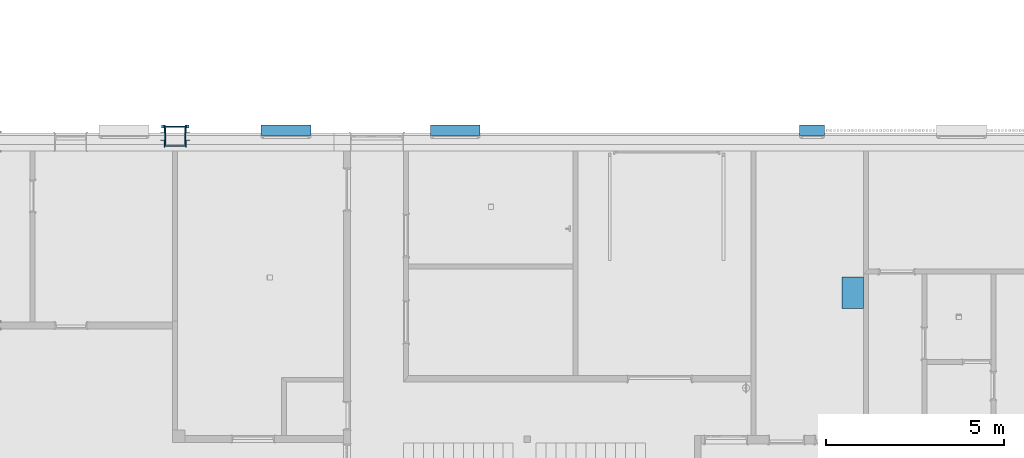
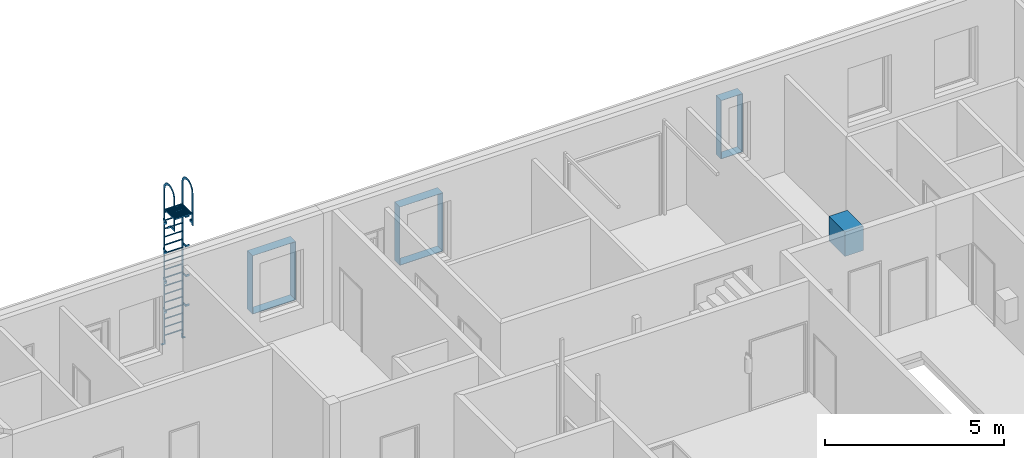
# One storey, part 31 of 112: 5 discrete accessories.
"""IFC2X3 building model written with IfcOpenShell, lengths in millimetres."""

from ifc_helpers import new_model, entity, si_unit, converted_unit, derived_unit, money_unit, direction, frame, origin_with_axes, place, context, subcontext, project, spatial, polyline, outline, extrude, open_shell, faceted_brep, surface_model, source, transform, mapped, material, type_object, element, save


model = new_model("IFC2X3")

# Units and contexts
model_context = context("Model", 3, precision=0.01, world=origin_with_axes(), true_north=direction((0.0, 1.0)))
body_context = subcontext(model_context, "Body", "Model", "MODEL_VIEW")
ifc_project = project(units=[si_unit("LENGTHUNIT", "METRE", prefix="MILLI"), si_unit("AREAUNIT", "SQUARE_METRE"), si_unit("VOLUMEUNIT", "CUBIC_METRE"), converted_unit("PLANEANGLEUNIT", "DEGREE", entity("IfcPlaneAngleMeasure", 0.0174532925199), si_unit("PLANEANGLEUNIT", "RADIAN"), dimensions=[0, 0, 0, 0, 0, 0, 0]), si_unit("SOLIDANGLEUNIT", "STERADIAN"), money_unit("EUR"), converted_unit("TIMEUNIT", "Year", entity("IfcTimeMeasure", 31556926.0), si_unit("TIMEUNIT", "SECOND"), dimensions=[0, 0, 1, 0, 0, 0, 0]), si_unit("MASSUNIT", "GRAM", prefix="KILO"), si_unit("THERMODYNAMICTEMPERATUREUNIT", "DEGREE_CELSIUS"), si_unit("LUMINOUSINTENSITYUNIT", "LUMEN"), si_unit("ENERGYUNIT", "JOULE", prefix="MEGA"), derived_unit("THERMALCONDUCTANCEUNIT", [(si_unit("POWERUNIT", "WATT"), 1), (si_unit("LENGTHUNIT", "METRE"), -1), (si_unit("THERMODYNAMICTEMPERATUREUNIT", "KELVIN"), -1)]), derived_unit("SPECIFICHEATCAPACITYUNIT", [(si_unit("ENERGYUNIT", "JOULE"), 1), (si_unit("MASSUNIT", "GRAM", prefix="KILO"), -1), (si_unit("THERMODYNAMICTEMPERATUREUNIT", "KELVIN"), -1)]), derived_unit("MASSDENSITYUNIT", [(si_unit("MASSUNIT", "GRAM", prefix="KILO"), 1), (si_unit("VOLUMEUNIT", "CUBIC_METRE"), -1)])], contexts=[model_context])

# Site, building, storey
site_placement = place(None, origin_with_axes())
site = spatial("IfcSite", under=ifc_project, at=site_placement, Name="Politse- ja Piirivalveameti ning Päästeameti ühishoone", CompositionType="ELEMENT")
building_placement = place(site_placement, origin_with_axes())
building = spatial("IfcBuilding", under=site, at=building_placement, Name="Politse- ja Piirivalveameti ning Päästeameti ühishoone", CompositionType="ELEMENT")
storey_placement = place(building_placement, origin_with_axes())
storey = spatial("IfcBuildingStorey", under=building, at=storey_placement, Name="Esimene korrus", CompositionType="ELEMENT", Elevation=0.0)

# Discrete accessories
ifc_material_1 = material(Name="Aluminium")
discrete_accessory_type_1 = type_object("IfcDiscreteAccessoryType", Name="Aluminium 840")
discrete_accessory_1_placement = place(storey_placement, frame((30724.7100495, 16570.8319279, 0.0), z_axis=(0.0, 0.0, 1.0), x_axis=(1.0, 0.0, 0.0)))
element("IfcDiscreteAccessory", 1, at=discrete_accessory_1_placement, inside=storey, type_object=discrete_accessory_type_1, material=ifc_material_1, Name="KOMP (Kõrgsurve surukompressor)", context=body_context, shape_type="SweptSolid", body=[
    extrude(outline(polyline([(0.0, 0.0), (600.0, 0.0), (600.0, 890.0), (0.0, 890.0), (0.0, 0.0)])), origin_with_axes(), (0.0, 0.0, 1.0), 840.0),
])
ifc_material_2 = material(Name="SV-01_Krohv - Kips")
discrete_accessory_type_2 = type_object("IfcDiscreteAccessoryType", Name="Architrave 01 23")
shared_shape_1 = source(origin_with_axes(), body_context, "Body", "Brep", [
    faceted_brep([(350.0, 0.0, -10.0), (350.0, -300.182356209, -10.0), (-350.0, -300.182356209, -10.0), (-350.0, 0.0, -10.0), (340.0, 0.0, 0.0), (340.0, -300.182356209, 0.0), (-340.0, -300.182356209, 0.0), (-340.0, 0.0, 0.0)], [[[0, 1, 2, 3]], [[4, 5, 1, 0]], [[1, 5, 6, 2]], [[3, 2, 6, 7]], [[0, 3, 7, 4]], [[7, 6, 5, 4]]]),
    faceted_brep([(-350.0, 0.0, -10.0), (-350.0, -300.182356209, -10.0), (-350.0, -300.182356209, 1990.0), (-350.0, 0.0, 1990.0), (-340.0, 0.0, 0.0), (-340.0, -300.182356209, 0.0), (-340.0, -300.182356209, 1980.0), (-340.0, 0.0, 1980.0)], [[[0, 1, 2, 3]], [[4, 5, 1, 0]], [[1, 5, 6, 2]], [[3, 2, 6, 7]], [[0, 3, 7, 4]], [[7, 6, 5, 4]]]),
    faceted_brep([(-350.0, 0.0, 1990.0), (-350.0, -300.182356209, 1990.0), (350.0, -300.182356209, 1990.0), (350.0, 0.0, 1990.0), (-340.0, 0.0, 1980.0), (-340.0, -300.182356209, 1980.0), (340.0, -300.182356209, 1980.0), (340.0, 0.0, 1980.0)], [[[0, 1, 2, 3]], [[4, 5, 1, 0]], [[1, 5, 6, 2]], [[3, 2, 6, 7]], [[0, 3, 7, 4]], [[7, 6, 5, 4]]]),
    faceted_brep([(350.0, 0.0, 1990.0), (350.0, -300.182356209, 1990.0), (350.0, -300.182356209, -10.0), (350.0, 0.0, -10.0), (340.0, 0.0, 1980.0), (340.0, -300.182356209, 1980.0), (340.0, -300.182356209, 0.0), (340.0, 0.0, 0.0)], [[[0, 1, 2, 3]], [[4, 5, 1, 0]], [[1, 5, 6, 2]], [[3, 2, 6, 7]], [[0, 3, 7, 4]], [[7, 6, 5, 4]]]),
])
discrete_accessory_2_placement = place(storey_placement, frame((29884.1843169, 21429.9520832, 810.0), z_axis=(0.0, 0.0, 1.0), x_axis=(-1.0, 0.0, 0.0)))
element("IfcDiscreteAccessory", 2, at=discrete_accessory_2_placement, inside=storey, type_object=discrete_accessory_type_2, material=ifc_material_2, Name="AKNARAAM 01", context=body_context, shape_type="MappedRepresentation", body=[
    mapped(shared_shape_1, transform((0.0, 0.0, 0.0))),
])
shared_shape_2 = source(origin_with_axes(), body_context, "Body", "Brep", [
    faceted_brep([(700.0, 0.0, -10.0), (700.0, -300.182356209, -10.0), (-700.0, -300.182356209, -10.0), (-700.0, 0.0, -10.0), (690.0, 0.0, 0.0), (690.0, -300.182356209, 0.0), (-690.0, -300.182356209, 0.0), (-690.0, 0.0, 0.0)], [[[0, 1, 2, 3]], [[4, 5, 1, 0]], [[1, 5, 6, 2]], [[3, 2, 6, 7]], [[0, 3, 7, 4]], [[7, 6, 5, 4]]]),
    faceted_brep([(-700.0, 0.0, -10.0), (-700.0, -300.182356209, -10.0), (-700.0, -300.182356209, 1990.0), (-700.0, 0.0, 1990.0), (-690.0, 0.0, 0.0), (-690.0, -300.182356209, 0.0), (-690.0, -300.182356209, 1980.0), (-690.0, 0.0, 1980.0)], [[[0, 1, 2, 3]], [[4, 5, 1, 0]], [[1, 5, 6, 2]], [[3, 2, 6, 7]], [[0, 3, 7, 4]], [[7, 6, 5, 4]]]),
    faceted_brep([(-700.0, 0.0, 1990.0), (-700.0, -300.182356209, 1990.0), (700.0, -300.182356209, 1990.0), (700.0, 0.0, 1990.0), (-690.0, 0.0, 1980.0), (-690.0, -300.182356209, 1980.0), (690.0, -300.182356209, 1980.0), (690.0, 0.0, 1980.0)], [[[0, 1, 2, 3]], [[4, 5, 1, 0]], [[1, 5, 6, 2]], [[3, 2, 6, 7]], [[0, 3, 7, 4]], [[7, 6, 5, 4]]]),
    faceted_brep([(700.0, 0.0, 1990.0), (700.0, -300.182356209, 1990.0), (700.0, -300.182356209, -10.0), (700.0, 0.0, -10.0), (690.0, 0.0, 1980.0), (690.0, -300.182356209, 1980.0), (690.0, -300.182356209, 0.0), (690.0, 0.0, 0.0)], [[[0, 1, 2, 3]], [[4, 5, 1, 0]], [[1, 5, 6, 2]], [[3, 2, 6, 7]], [[0, 3, 7, 4]], [[7, 6, 5, 4]]]),
])
for number, where, z_axis, x_axis, name in (
    (3, (19849.8836066, 21429.9520832, 810.0), (0.0, 0.0, 1.0), (-1.0, 0.0, 0.0), "AKNARAAM 01"),
    (4, (15090.1666751, 21429.9520832, 810.0), (0.0, 0.0, 1.0), (-1.0, 0.0, 0.0), "AKNARAAM 01"),
):
    element("IfcDiscreteAccessory", number, at=place(storey_placement, frame(where, z_axis=z_axis, x_axis=x_axis)), inside=storey, type_object=discrete_accessory_type_2, material=ifc_material_2, Name=name, context=body_context, shape_type="MappedRepresentation", body=[
        mapped(shared_shape_2, transform((0.0, 0.0, 0.0))),
    ])
discrete_accessory_type_3 = type_object("IfcDiscreteAccessoryType", Name="Vertical Ladder 23")
shared_shape_3 = source(origin_with_axes(), body_context, "Body", "SurfaceModel", [
    faceted_brep([(-287.3, -180.0, 4556.9044187), (287.3, -180.0, 4556.9044187), (287.3, -180.0, 4606.9044187), (-287.3, -180.0, 4606.9044187), (-287.3, 380.0, 4556.9044187), (287.3, 380.0, 4556.9044187), (-261.9, -154.6, 4556.9044187), (261.9, -154.6, 4556.9044187), (261.9, 354.6, 4556.9044187), (-261.9, 354.6, 4556.9044187), (287.3, 380.0, 4606.9044187), (-287.3, 380.0, 4606.9044187), (-261.9, -154.6, 4606.9044187), (-261.9, 354.6, 4606.9044187), (261.9, 354.6, 4606.9044187), (261.9, -154.6, 4606.9044187)], [[[0, 1, 2, 3]], [[0, 4, 5, 1], [6, 7, 8, 9]], [[1, 5, 10, 2]], [[3, 2, 10, 11], [12, 13, 14, 15]], [[4, 0, 3, 11]], [[5, 4, 11, 10]], [[7, 6, 12, 15]], [[8, 7, 15, 14]], [[9, 8, 14, 13]], [[6, 9, 13, 12]]]),
    surface_model("IfcShellBasedSurfaceModel", [(-261.9, -130.0, 4606.9044187), (-261.9, -130.0, 4556.9044187), (261.9, -130.0, 4556.9044187), (261.9, -130.0, 4606.9044187)], [open_shell([[[0, 1, 2, 3]]])]),
    surface_model("IfcShellBasedSurfaceModel", [(-261.9, -80.0, 4606.9044187), (-261.9, -80.0, 4556.9044187), (261.9, -80.0, 4556.9044187), (261.9, -80.0, 4606.9044187)], [open_shell([[[0, 1, 2, 3]]])]),
    surface_model("IfcShellBasedSurfaceModel", [(-261.9, -30.0, 4606.9044187), (-261.9, -30.0, 4556.9044187), (261.9, -30.0, 4556.9044187), (261.9, -30.0, 4606.9044187)], [open_shell([[[0, 1, 2, 3]]])]),
    surface_model("IfcShellBasedSurfaceModel", [(-261.9, 20.0, 4606.9044187), (-261.9, 20.0, 4556.9044187), (261.9, 20.0, 4556.9044187), (261.9, 20.0, 4606.9044187)], [open_shell([[[0, 1, 2, 3]]])]),
    surface_model("IfcShellBasedSurfaceModel", [(-261.9, 70.0, 4606.9044187), (-261.9, 70.0, 4556.9044187), (261.9, 70.0, 4556.9044187), (261.9, 70.0, 4606.9044187)], [open_shell([[[0, 1, 2, 3]]])]),
    surface_model("IfcShellBasedSurfaceModel", [(-261.9, 120.0, 4606.9044187), (-261.9, 120.0, 4556.9044187), (261.9, 120.0, 4556.9044187), (261.9, 120.0, 4606.9044187)], [open_shell([[[0, 1, 2, 3]]])]),
    surface_model("IfcShellBasedSurfaceModel", [(-261.9, 170.0, 4606.9044187), (-261.9, 170.0, 4556.9044187), (261.9, 170.0, 4556.9044187), (261.9, 170.0, 4606.9044187)], [open_shell([[[0, 1, 2, 3]]])]),
    surface_model("IfcShellBasedSurfaceModel", [(-261.9, 220.0, 4606.9044187), (-261.9, 220.0, 4556.9044187), (261.9, 220.0, 4556.9044187), (261.9, 220.0, 4606.9044187)], [open_shell([[[0, 1, 2, 3]]])]),
    surface_model("IfcShellBasedSurfaceModel", [(-261.9, 270.0, 4606.9044187), (-261.9, 270.0, 4556.9044187), (261.9, 270.0, 4556.9044187), (261.9, 270.0, 4606.9044187)], [open_shell([[[0, 1, 2, 3]]])]),
    surface_model("IfcShellBasedSurfaceModel", [(-261.9, 320.0, 4606.9044187), (-261.9, 320.0, 4556.9044187), (261.9, 320.0, 4556.9044187), (261.9, 320.0, 4606.9044187)], [open_shell([[[0, 1, 2, 3]]])]),
    surface_model("IfcShellBasedSurfaceModel", [(262.7, -154.6, 4606.9044187), (262.7, -154.6, 4556.9044187), (262.7, 354.6, 4556.9044187), (262.7, 354.6, 4606.9044187)], [open_shell([[[0, 1, 2, 3]]])]),
    surface_model("IfcShellBasedSurfaceModel", [(212.7, -154.6, 4606.9044187), (212.7, -154.6, 4556.9044187), (212.7, 354.6, 4556.9044187), (212.7, 354.6, 4606.9044187)], [open_shell([[[0, 1, 2, 3]]])]),
    surface_model("IfcShellBasedSurfaceModel", [(162.7, -154.6, 4606.9044187), (162.7, -154.6, 4556.9044187), (162.7, 354.6, 4556.9044187), (162.7, 354.6, 4606.9044187)], [open_shell([[[0, 1, 2, 3]]])]),
    surface_model("IfcShellBasedSurfaceModel", [(112.7, -154.6, 4606.9044187), (112.7, -154.6, 4556.9044187), (112.7, 354.6, 4556.9044187), (112.7, 354.6, 4606.9044187)], [open_shell([[[0, 1, 2, 3]]])]),
    surface_model("IfcShellBasedSurfaceModel", [(62.7, -154.6, 4606.9044187), (62.7, -154.6, 4556.9044187), (62.7, 354.6, 4556.9044187), (62.7, 354.6, 4606.9044187)], [open_shell([[[0, 1, 2, 3]]])]),
    surface_model("IfcShellBasedSurfaceModel", [(12.7, -154.6, 4606.9044187), (12.7, -154.6, 4556.9044187), (12.7, 354.6, 4556.9044187), (12.7, 354.6, 4606.9044187)], [open_shell([[[0, 1, 2, 3]]])]),
    surface_model("IfcShellBasedSurfaceModel", [(-37.3, -154.6, 4606.9044187), (-37.3, -154.6, 4556.9044187), (-37.3, 354.6, 4556.9044187), (-37.3, 354.6, 4606.9044187)], [open_shell([[[0, 1, 2, 3]]])]),
    surface_model("IfcShellBasedSurfaceModel", [(-87.3, -154.6, 4606.9044187), (-87.3, -154.6, 4556.9044187), (-87.3, 354.6, 4556.9044187), (-87.3, 354.6, 4606.9044187)], [open_shell([[[0, 1, 2, 3]]])]),
    surface_model("IfcShellBasedSurfaceModel", [(-137.3, -154.6, 4606.9044187), (-137.3, -154.6, 4556.9044187), (-137.3, 354.6, 4556.9044187), (-137.3, 354.6, 4606.9044187)], [open_shell([[[0, 1, 2, 3]]])]),
    surface_model("IfcShellBasedSurfaceModel", [(-187.3, -154.6, 4606.9044187), (-187.3, -154.6, 4556.9044187), (-187.3, 354.6, 4556.9044187), (-187.3, 354.6, 4606.9044187)], [open_shell([[[0, 1, 2, 3]]])]),
    surface_model("IfcShellBasedSurfaceModel", [(-237.3, -154.6, 4606.9044187), (-237.3, -154.6, 4556.9044187), (-237.3, 354.6, 4556.9044187), (-237.3, 354.6, 4606.9044187)], [open_shell([[[0, 1, 2, 3]]])]),
    faceted_brep([(-388.9, -141.9, 12.7), (-388.9, -141.9, 0.0), (-388.9, -218.1, 0.0), (-388.9, -218.1, 12.7), (-287.3, -141.9, 12.7), (-287.3, -141.9, 152.4), (-274.6, -141.9, 152.4), (-274.6, -141.9, 0.0), (-274.6, -218.1, 0.0), (-274.6, -218.1, 152.4), (-287.3, -218.1, 152.4), (-287.3, -218.1, 12.7)], [[[0, 1, 2, 3]], [[0, 4, 5, 6, 7, 1]], [[1, 7, 8, 2]], [[3, 2, 8, 9, 10, 11]], [[4, 0, 3, 11]], [[5, 4, 11, 10]], [[6, 5, 10, 9]], [[7, 6, 9, 8]]]),
    faceted_brep([(388.9, -141.9, 12.7), (388.9, -218.1, 12.7), (388.9, -218.1, 0.0), (388.9, -141.9, 0.0), (287.3, -141.9, 12.7), (287.3, -218.1, 12.7), (287.3, -218.1, 152.4), (274.6, -218.1, 152.4), (274.6, -218.1, 0.0), (274.6, -141.9, 0.0), (274.6, -141.9, 152.4), (287.3, -141.9, 152.4)], [[[0, 1, 2, 3]], [[4, 5, 1, 0]], [[1, 5, 6, 7, 8, 2]], [[3, 2, 8, 9]], [[0, 3, 9, 10, 11, 4]], [[11, 6, 5, 4]], [[10, 7, 6, 11]], [[9, 8, 7, 10]]]),
    faceted_brep([(-312.7, 212.7, 4205.3044187), (-312.7, 212.7, 4281.5044187), (-312.7, 418.1, 4281.5044187), (-312.7, 418.1, 4205.3044187), (-414.3, 212.7, 4205.3044187), (-414.3, 212.7, 4281.5044187), (-414.3, 200.0, 4281.5044187), (-300.0, 200.0, 4281.5044187), (-300.0, 418.1, 4281.5044187), (-300.0, 418.1, 4205.3044187), (-300.0, 200.0, 4205.3044187), (-414.3, 200.0, 4205.3044187)], [[[0, 1, 2, 3]], [[4, 5, 1, 0]], [[1, 5, 6, 7, 8, 2]], [[3, 2, 8, 9]], [[0, 3, 9, 10, 11, 4]], [[11, 6, 5, 4]], [[10, 7, 6, 11]], [[9, 8, 7, 10]]]),
    faceted_brep([(312.7, 212.7, 4205.3044187), (312.7, 418.1, 4205.3044187), (312.7, 418.1, 4281.5044187), (312.7, 212.7, 4281.5044187), (414.3, 212.7, 4205.3044187), (414.3, 200.0, 4205.3044187), (300.0, 200.0, 4205.3044187), (300.0, 418.1, 4205.3044187), (300.0, 418.1, 4281.5044187), (300.0, 200.0, 4281.5044187), (414.3, 200.0, 4281.5044187), (414.3, 212.7, 4281.5044187)], [[[0, 1, 2, 3]], [[0, 4, 5, 6, 7, 1]], [[1, 7, 8, 2]], [[3, 2, 8, 9, 10, 11]], [[4, 0, 3, 11]], [[5, 4, 11, 10]], [[6, 5, 10, 9]], [[7, 6, 9, 8]]]),
    faceted_brep([(-312.7, 212.7, 4205.3044187), (-312.7, 212.7, 4281.5044187), (-312.7, 418.1, 4281.5044187), (-312.7, 418.1, 4205.3044187), (-414.3, 212.7, 4205.3044187), (-414.3, 212.7, 4281.5044187), (-414.3, 200.0, 4281.5044187), (-300.0, 200.0, 4281.5044187), (-300.0, 418.1, 4281.5044187), (-300.0, 418.1, 4205.3044187), (-300.0, 200.0, 4205.3044187), (-414.3, 200.0, 4205.3044187)], [[[0, 1, 2, 3]], [[4, 5, 1, 0]], [[1, 5, 6, 7, 8, 2]], [[3, 2, 8, 9]], [[0, 3, 9, 10, 11, 4]], [[11, 6, 5, 4]], [[10, 7, 6, 11]], [[9, 8, 7, 10]]]),
    faceted_brep([(312.7, 212.7, 4205.3044187), (312.7, 418.1, 4205.3044187), (312.7, 418.1, 4281.5044187), (312.7, 212.7, 4281.5044187), (414.3, 212.7, 4205.3044187), (414.3, 200.0, 4205.3044187), (300.0, 200.0, 4205.3044187), (300.0, 418.1, 4205.3044187), (300.0, 418.1, 4281.5044187), (300.0, 200.0, 4281.5044187), (414.3, 200.0, 4281.5044187), (414.3, 212.7, 4281.5044187)], [[[0, 1, 2, 3]], [[0, 4, 5, 6, 7, 1]], [[1, 7, 8, 2]], [[3, 2, 8, 9, 10, 11]], [[4, 0, 3, 11]], [[5, 4, 11, 10]], [[6, 5, 10, 9]], [[7, 6, 9, 8]]]),
    faceted_brep([(-312.7, -12.7, 1165.62610468), (-312.7, -218.1, 1165.62610468), (-312.7, -218.1, 1241.82610468), (-312.7, -12.7, 1241.82610468), (-414.3, -12.7, 1165.62610468), (-414.3, 0.0, 1165.62610468), (-300.0, 0.0, 1165.62610468), (-300.0, -218.1, 1165.62610468), (-300.0, -218.1, 1241.82610468), (-300.0, 0.0, 1241.82610468), (-414.3, 0.0, 1241.82610468), (-414.3, -12.7, 1241.82610468)], [[[0, 1, 2, 3]], [[0, 4, 5, 6, 7, 1]], [[1, 7, 8, 2]], [[3, 2, 8, 9, 10, 11]], [[4, 0, 3, 11]], [[5, 4, 11, 10]], [[6, 5, 10, 9]], [[7, 6, 9, 8]]]),
    faceted_brep([(312.7, -12.7, 1165.62610468), (312.7, -12.7, 1241.82610468), (312.7, -218.1, 1241.82610468), (312.7, -218.1, 1165.62610468), (414.3, -12.7, 1165.62610468), (414.3, -12.7, 1241.82610468), (414.3, 0.0, 1241.82610468), (300.0, 0.0, 1241.82610468), (300.0, -218.1, 1241.82610468), (300.0, -218.1, 1165.62610468), (300.0, 0.0, 1165.62610468), (414.3, 0.0, 1165.62610468)], [[[0, 1, 2, 3]], [[4, 5, 1, 0]], [[1, 5, 6, 7, 8, 2]], [[3, 2, 8, 9]], [[0, 3, 9, 10, 11, 4]], [[11, 6, 5, 4]], [[10, 7, 6, 11]], [[9, 8, 7, 10]]]),
    faceted_brep([(-312.7, -12.7, 2178.85220935), (-312.7, -218.1, 2178.85220935), (-312.7, -218.1, 2255.05220935), (-312.7, -12.7, 2255.05220935), (-414.3, -12.7, 2178.85220935), (-414.3, 0.0, 2178.85220935), (-300.0, 0.0, 2178.85220935), (-300.0, -218.1, 2178.85220935), (-300.0, -218.1, 2255.05220935), (-300.0, 0.0, 2255.05220935), (-414.3, 0.0, 2255.05220935), (-414.3, -12.7, 2255.05220935)], [[[0, 1, 2, 3]], [[0, 4, 5, 6, 7, 1]], [[1, 7, 8, 2]], [[3, 2, 8, 9, 10, 11]], [[4, 0, 3, 11]], [[5, 4, 11, 10]], [[6, 5, 10, 9]], [[7, 6, 9, 8]]]),
    faceted_brep([(312.7, -12.7, 2178.85220935), (312.7, -12.7, 2255.05220935), (312.7, -218.1, 2255.05220935), (312.7, -218.1, 2178.85220935), (414.3, -12.7, 2178.85220935), (414.3, -12.7, 2255.05220935), (414.3, 0.0, 2255.05220935), (300.0, 0.0, 2255.05220935), (300.0, -218.1, 2255.05220935), (300.0, -218.1, 2178.85220935), (300.0, 0.0, 2178.85220935), (414.3, 0.0, 2178.85220935)], [[[0, 1, 2, 3]], [[4, 5, 1, 0]], [[1, 5, 6, 7, 8, 2]], [[3, 2, 8, 9]], [[0, 3, 9, 10, 11, 4]], [[11, 6, 5, 4]], [[10, 7, 6, 11]], [[9, 8, 7, 10]]]),
    faceted_brep([(-312.7, -12.7, 3192.07831403), (-312.7, -218.1, 3192.07831403), (-312.7, -218.1, 3268.27831403), (-312.7, -12.7, 3268.27831403), (-414.3, -12.7, 3192.07831403), (-414.3, 0.0, 3192.07831403), (-300.0, 0.0, 3192.07831403), (-300.0, -218.1, 3192.07831403), (-300.0, -218.1, 3268.27831403), (-300.0, 0.0, 3268.27831403), (-414.3, 0.0, 3268.27831403), (-414.3, -12.7, 3268.27831403)], [[[0, 1, 2, 3]], [[0, 4, 5, 6, 7, 1]], [[1, 7, 8, 2]], [[3, 2, 8, 9, 10, 11]], [[4, 0, 3, 11]], [[5, 4, 11, 10]], [[6, 5, 10, 9]], [[7, 6, 9, 8]]]),
    faceted_brep([(312.7, -12.7, 3192.07831403), (312.7, -12.7, 3268.27831403), (312.7, -218.1, 3268.27831403), (312.7, -218.1, 3192.07831403), (414.3, -12.7, 3192.07831403), (414.3, -12.7, 3268.27831403), (414.3, 0.0, 3268.27831403), (300.0, 0.0, 3268.27831403), (300.0, -218.1, 3268.27831403), (300.0, -218.1, 3192.07831403), (300.0, 0.0, 3192.07831403), (414.3, 0.0, 3192.07831403)], [[[0, 1, 2, 3]], [[4, 5, 1, 0]], [[1, 5, 6, 7, 8, 2]], [[3, 2, 8, 9]], [[0, 3, 9, 10, 11, 4]], [[11, 6, 5, 4]], [[10, 7, 6, 11]], [[9, 8, 7, 10]]]),
    faceted_brep([(-312.7, -12.7, 4205.3044187), (-312.7, -218.1, 4205.3044187), (-312.7, -218.1, 4281.5044187), (-312.7, -12.7, 4281.5044187), (-414.3, -12.7, 4205.3044187), (-414.3, 0.0, 4205.3044187), (-300.0, 0.0, 4205.3044187), (-300.0, -218.1, 4205.3044187), (-300.0, -218.1, 4281.5044187), (-300.0, 0.0, 4281.5044187), (-414.3, 0.0, 4281.5044187), (-414.3, -12.7, 4281.5044187)], [[[0, 1, 2, 3]], [[0, 4, 5, 6, 7, 1]], [[1, 7, 8, 2]], [[3, 2, 8, 9, 10, 11]], [[4, 0, 3, 11]], [[5, 4, 11, 10]], [[6, 5, 10, 9]], [[7, 6, 9, 8]]]),
    faceted_brep([(312.7, -12.7, 4205.3044187), (312.7, -12.7, 4281.5044187), (312.7, -218.1, 4281.5044187), (312.7, -218.1, 4205.3044187), (414.3, -12.7, 4205.3044187), (414.3, -12.7, 4281.5044187), (414.3, 0.0, 4281.5044187), (300.0, 0.0, 4281.5044187), (300.0, -218.1, 4281.5044187), (300.0, -218.1, 4205.3044187), (300.0, 0.0, 4205.3044187), (414.3, 0.0, 4205.3044187)], [[[0, 1, 2, 3]], [[4, 5, 1, 0]], [[1, 5, 6, 7, 8, 2]], [[3, 2, 8, 9]], [[0, 3, 9, 10, 11, 4]], [[11, 6, 5, 4]], [[10, 7, 6, 11]], [[9, 8, 7, 10]]]),
    faceted_brep([(-287.3, -141.9, 101.6), (-287.3, -218.1, 101.6), (-300.0, -218.1, 101.6), (-300.0, -141.9, 101.6), (-287.3, -141.9, 5306.9044187), (-287.3, -123.486458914, 5399.47554099), (-287.3, -71.049130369, 5477.95354907), (-287.3, 7.42887771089, 5530.39087762), (-287.3, 100.0, 5548.8044187), (-287.3, 192.571122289, 5530.39087762), (-287.3, 271.049130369, 5477.95354907), (-287.3, 323.486458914, 5399.47554099), (-287.3, 341.9, 5306.9044187), (-287.3, 341.9, 4179.9044187), (-287.3, 418.1, 4179.9044187), (-287.3, 418.1, 5306.9044187), (-287.3, 393.886079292, 5428.63601854), (-287.3, 324.930667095, 5531.8350858), (-287.3, 221.731599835, 5600.79049799), (-287.3, 100.0, 5625.0044187), (-287.3, -21.7315998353, 5600.79049799), (-287.3, -124.930667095, 5531.8350858), (-287.3, -193.886079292, 5428.63601854), (-287.3, -218.1, 5306.9044187), (-300.0, -218.1, 5306.9044187), (-300.0, -193.886079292, 5428.63601854), (-300.0, -124.930667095, 5531.8350858), (-300.0, -21.7315998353, 5600.79049799), (-300.0, 100.0, 5625.0044187), (-300.0, 221.731599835, 5600.79049799), (-300.0, 324.930667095, 5531.8350858), (-300.0, 393.886079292, 5428.63601854), (-300.0, 418.1, 5306.9044187), (-300.0, 418.1, 4179.9044187), (-300.0, 341.9, 4179.9044187), (-300.0, 341.9, 5306.9044187), (-300.0, 323.486458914, 5399.47554099), (-300.0, 271.049130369, 5477.95354907), (-300.0, 192.571122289, 5530.39087762), (-300.0, 100.0, 5548.8044187), (-300.0, 7.42887771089, 5530.39087762), (-300.0, -71.049130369, 5477.95354907), (-300.0, -123.486458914, 5399.47554099), (-300.0, -141.9, 5306.9044187)], [[[0, 1, 2, 3]], [[0, 4, 5, 6, 7, 8, 9, 10, 11, 12, 13, 14, 15, 16, 17, 18, 19, 20, 21, 22, 23, 1]], [[1, 23, 24, 2]], [[3, 2, 24, 25, 26, 27, 28, 29, 30, 31, 32, 33, 34, 35, 36, 37, 38, 39, 40, 41, 42, 43]], [[4, 0, 3, 43]], [[5, 4, 43, 42]], [[6, 5, 42, 41]], [[7, 6, 41, 40]], [[8, 7, 40, 39]], [[9, 8, 39, 38]], [[10, 9, 38, 37]], [[11, 10, 37, 36]], [[12, 11, 36, 35]], [[13, 12, 35, 34]], [[14, 13, 34, 33]], [[15, 14, 33, 32]], [[16, 15, 32, 31]], [[17, 16, 31, 30]], [[18, 17, 30, 29]], [[19, 18, 29, 28]], [[20, 19, 28, 27]], [[21, 20, 27, 26]], [[22, 21, 26, 25]], [[23, 22, 25, 24]]]),
    faceted_brep([(300.0, -141.9, 101.6), (300.0, -218.1, 101.6), (287.3, -218.1, 101.6), (287.3, -141.9, 101.6), (300.0, -141.9, 5306.9044187), (300.0, -123.486458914, 5399.47554099), (300.0, -71.049130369, 5477.95354907), (300.0, 7.42887771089, 5530.39087762), (300.0, 100.0, 5548.8044187), (300.0, 192.571122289, 5530.39087762), (300.0, 271.049130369, 5477.95354907), (300.0, 323.486458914, 5399.47554099), (300.0, 341.9, 5306.9044187), (300.0, 341.9, 4179.9044187), (300.0, 418.1, 4179.9044187), (300.0, 418.1, 5306.9044187), (300.0, 393.886079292, 5428.63601854), (300.0, 324.930667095, 5531.8350858), (300.0, 221.731599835, 5600.79049799), (300.0, 100.0, 5625.0044187), (300.0, -21.7315998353, 5600.79049799), (300.0, -124.930667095, 5531.8350858), (300.0, -193.886079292, 5428.63601854), (300.0, -218.1, 5306.9044187), (287.3, -218.1, 5306.9044187), (287.3, -193.886079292, 5428.63601854), (287.3, -124.930667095, 5531.8350858), (287.3, -21.7315998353, 5600.79049799), (287.3, 100.0, 5625.0044187), (287.3, 221.731599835, 5600.79049799), (287.3, 324.930667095, 5531.8350858), (287.3, 393.886079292, 5428.63601854), (287.3, 418.1, 5306.9044187), (287.3, 418.1, 4179.9044187), (287.3, 341.9, 4179.9044187), (287.3, 341.9, 5306.9044187), (287.3, 323.486458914, 5399.47554099), (287.3, 271.049130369, 5477.95354907), (287.3, 192.571122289, 5530.39087762), (287.3, 100.0, 5548.8044187), (287.3, 7.42887771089, 5530.39087762), (287.3, -71.049130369, 5477.95354907), (287.3, -123.486458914, 5399.47554099), (287.3, -141.9, 5306.9044187)], [[[0, 1, 2, 3]], [[0, 4, 5, 6, 7, 8, 9, 10, 11, 12, 13, 14, 15, 16, 17, 18, 19, 20, 21, 22, 23, 1]], [[1, 23, 24, 2]], [[3, 2, 24, 25, 26, 27, 28, 29, 30, 31, 32, 33, 34, 35, 36, 37, 38, 39, 40, 41, 42, 43]], [[4, 0, 3, 43]], [[5, 4, 43, 42]], [[6, 5, 42, 41]], [[7, 6, 41, 40]], [[8, 7, 40, 39]], [[9, 8, 39, 38]], [[10, 9, 38, 37]], [[11, 10, 37, 36]], [[12, 11, 36, 35]], [[13, 12, 35, 34]], [[14, 13, 34, 33]], [[15, 14, 33, 32]], [[16, 15, 32, 31]], [[17, 16, 31, 30]], [[18, 17, 30, 29]], [[19, 18, 29, 28]], [[20, 19, 28, 27]], [[21, 20, 27, 26]], [[22, 21, 26, 25]], [[23, 22, 25, 24]]]),
    faceted_brep([(287.3, -195.0, 270.0), (-287.3, -195.0, 270.0), (-287.3, -165.0, 270.0), (287.3, -165.0, 270.0), (287.3, -195.0, 300.0), (-287.3, -195.0, 300.0), (-287.3, -165.0, 300.0), (287.3, -165.0, 300.0)], [[[0, 1, 2, 3]], [[1, 0, 4, 5]], [[2, 1, 5, 6]], [[3, 2, 6, 7]], [[0, 3, 7, 4]], [[5, 4, 7, 6]]]),
    faceted_brep([(287.3, -195.0, 550.46029458), (-287.3, -195.0, 550.46029458), (-287.3, -165.0, 550.46029458), (287.3, -165.0, 550.46029458), (287.3, -195.0, 580.46029458), (-287.3, -195.0, 580.46029458), (-287.3, -165.0, 580.46029458), (287.3, -165.0, 580.46029458)], [[[0, 1, 2, 3]], [[1, 0, 4, 5]], [[2, 1, 5, 6]], [[3, 2, 6, 7]], [[0, 3, 7, 4]], [[5, 4, 7, 6]]]),
    faceted_brep([(287.3, -195.0, 830.92058916), (-287.3, -195.0, 830.92058916), (-287.3, -165.0, 830.92058916), (287.3, -165.0, 830.92058916), (287.3, -195.0, 860.92058916), (-287.3, -195.0, 860.92058916), (-287.3, -165.0, 860.92058916), (287.3, -165.0, 860.92058916)], [[[0, 1, 2, 3]], [[1, 0, 4, 5]], [[2, 1, 5, 6]], [[3, 2, 6, 7]], [[0, 3, 7, 4]], [[5, 4, 7, 6]]]),
    faceted_brep([(287.3, -195.0, 1111.38088374), (-287.3, -195.0, 1111.38088374), (-287.3, -165.0, 1111.38088374), (287.3, -165.0, 1111.38088374), (287.3, -195.0, 1141.38088374), (-287.3, -195.0, 1141.38088374), (-287.3, -165.0, 1141.38088374), (287.3, -165.0, 1141.38088374)], [[[0, 1, 2, 3]], [[1, 0, 4, 5]], [[2, 1, 5, 6]], [[3, 2, 6, 7]], [[0, 3, 7, 4]], [[5, 4, 7, 6]]]),
    faceted_brep([(287.3, -195.0, 1391.84117832), (-287.3, -195.0, 1391.84117832), (-287.3, -165.0, 1391.84117832), (287.3, -165.0, 1391.84117832), (287.3, -195.0, 1421.84117832), (-287.3, -195.0, 1421.84117832), (-287.3, -165.0, 1421.84117832), (287.3, -165.0, 1421.84117832)], [[[0, 1, 2, 3]], [[1, 0, 4, 5]], [[2, 1, 5, 6]], [[3, 2, 6, 7]], [[0, 3, 7, 4]], [[5, 4, 7, 6]]]),
    faceted_brep([(287.3, -195.0, 1672.3014729), (-287.3, -195.0, 1672.3014729), (-287.3, -165.0, 1672.3014729), (287.3, -165.0, 1672.3014729), (287.3, -195.0, 1702.3014729), (-287.3, -195.0, 1702.3014729), (-287.3, -165.0, 1702.3014729), (287.3, -165.0, 1702.3014729)], [[[0, 1, 2, 3]], [[1, 0, 4, 5]], [[2, 1, 5, 6]], [[3, 2, 6, 7]], [[0, 3, 7, 4]], [[5, 4, 7, 6]]]),
    faceted_brep([(287.3, -195.0, 1952.76176748), (-287.3, -195.0, 1952.76176748), (-287.3, -165.0, 1952.76176748), (287.3, -165.0, 1952.76176748), (287.3, -195.0, 1982.76176748), (-287.3, -195.0, 1982.76176748), (-287.3, -165.0, 1982.76176748), (287.3, -165.0, 1982.76176748)], [[[0, 1, 2, 3]], [[1, 0, 4, 5]], [[2, 1, 5, 6]], [[3, 2, 6, 7]], [[0, 3, 7, 4]], [[5, 4, 7, 6]]]),
    faceted_brep([(287.3, -195.0, 2233.22206206), (-287.3, -195.0, 2233.22206206), (-287.3, -165.0, 2233.22206206), (287.3, -165.0, 2233.22206206), (287.3, -195.0, 2263.22206206), (-287.3, -195.0, 2263.22206206), (-287.3, -165.0, 2263.22206206), (287.3, -165.0, 2263.22206206)], [[[0, 1, 2, 3]], [[1, 0, 4, 5]], [[2, 1, 5, 6]], [[3, 2, 6, 7]], [[0, 3, 7, 4]], [[5, 4, 7, 6]]]),
    faceted_brep([(287.3, -195.0, 2513.68235664), (-287.3, -195.0, 2513.68235664), (-287.3, -165.0, 2513.68235664), (287.3, -165.0, 2513.68235664), (287.3, -195.0, 2543.68235664), (-287.3, -195.0, 2543.68235664), (-287.3, -165.0, 2543.68235664), (287.3, -165.0, 2543.68235664)], [[[0, 1, 2, 3]], [[1, 0, 4, 5]], [[2, 1, 5, 6]], [[3, 2, 6, 7]], [[0, 3, 7, 4]], [[5, 4, 7, 6]]]),
    faceted_brep([(287.3, -195.0, 2794.14265122), (-287.3, -195.0, 2794.14265122), (-287.3, -165.0, 2794.14265122), (287.3, -165.0, 2794.14265122), (287.3, -195.0, 2824.14265122), (-287.3, -195.0, 2824.14265122), (-287.3, -165.0, 2824.14265122), (287.3, -165.0, 2824.14265122)], [[[0, 1, 2, 3]], [[1, 0, 4, 5]], [[2, 1, 5, 6]], [[3, 2, 6, 7]], [[0, 3, 7, 4]], [[5, 4, 7, 6]]]),
    faceted_brep([(287.3, -195.0, 3074.6029458), (-287.3, -195.0, 3074.6029458), (-287.3, -165.0, 3074.6029458), (287.3, -165.0, 3074.6029458), (287.3, -195.0, 3104.6029458), (-287.3, -195.0, 3104.6029458), (-287.3, -165.0, 3104.6029458), (287.3, -165.0, 3104.6029458)], [[[0, 1, 2, 3]], [[1, 0, 4, 5]], [[2, 1, 5, 6]], [[3, 2, 6, 7]], [[0, 3, 7, 4]], [[5, 4, 7, 6]]]),
    faceted_brep([(287.3, -195.0, 3355.06324038), (-287.3, -195.0, 3355.06324038), (-287.3, -165.0, 3355.06324038), (287.3, -165.0, 3355.06324038), (287.3, -195.0, 3385.06324038), (-287.3, -195.0, 3385.06324038), (-287.3, -165.0, 3385.06324038), (287.3, -165.0, 3385.06324038)], [[[0, 1, 2, 3]], [[1, 0, 4, 5]], [[2, 1, 5, 6]], [[3, 2, 6, 7]], [[0, 3, 7, 4]], [[5, 4, 7, 6]]]),
    faceted_brep([(287.3, -195.0, 3635.52353496), (-287.3, -195.0, 3635.52353496), (-287.3, -165.0, 3635.52353496), (287.3, -165.0, 3635.52353496), (287.3, -195.0, 3665.52353496), (-287.3, -195.0, 3665.52353496), (-287.3, -165.0, 3665.52353496), (287.3, -165.0, 3665.52353496)], [[[0, 1, 2, 3]], [[1, 0, 4, 5]], [[2, 1, 5, 6]], [[3, 2, 6, 7]], [[0, 3, 7, 4]], [[5, 4, 7, 6]]]),
    faceted_brep([(287.3, -195.0, 3915.98382954), (-287.3, -195.0, 3915.98382954), (-287.3, -165.0, 3915.98382954), (287.3, -165.0, 3915.98382954), (287.3, -195.0, 3945.98382954), (-287.3, -195.0, 3945.98382954), (-287.3, -165.0, 3945.98382954), (287.3, -165.0, 3945.98382954)], [[[0, 1, 2, 3]], [[1, 0, 4, 5]], [[2, 1, 5, 6]], [[3, 2, 6, 7]], [[0, 3, 7, 4]], [[5, 4, 7, 6]]]),
    faceted_brep([(287.3, -195.0, 4196.44412412), (-287.3, -195.0, 4196.44412412), (-287.3, -165.0, 4196.44412412), (287.3, -165.0, 4196.44412412), (287.3, -195.0, 4226.44412412), (-287.3, -195.0, 4226.44412412), (-287.3, -165.0, 4226.44412412), (287.3, -165.0, 4226.44412412)], [[[0, 1, 2, 3]], [[1, 0, 4, 5]], [[2, 1, 5, 6]], [[3, 2, 6, 7]], [[0, 3, 7, 4]], [[5, 4, 7, 6]]]),
    faceted_brep([(287.3, -195.0, 4476.9044187), (-287.3, -195.0, 4476.9044187), (-287.3, -165.0, 4476.9044187), (287.3, -165.0, 4476.9044187), (287.3, -195.0, 4506.9044187), (-287.3, -195.0, 4506.9044187), (-287.3, -165.0, 4506.9044187), (287.3, -165.0, 4506.9044187)], [[[0, 1, 2, 3]], [[1, 0, 4, 5]], [[2, 1, 5, 6]], [[3, 2, 6, 7]], [[0, 3, 7, 4]], [[5, 4, 7, 6]]]),
])
discrete_accessory_3_placement = place(storey_placement, frame((11981.6400645, 21509.9520832, 584.016170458), z_axis=(0.0, 0.0, 1.0), x_axis=(-1.0, 0.0, 0.0)))
element("IfcDiscreteAccessory", 5, at=discrete_accessory_3_placement, inside=storey, type_object=discrete_accessory_type_3, Name="VÄLISREDEL 1", context=body_context, shape_type="MappedRepresentation", body=[
    mapped(shared_shape_3, transform((0.0, 0.0, 0.0))),
])

save(model, "model.ifc")
